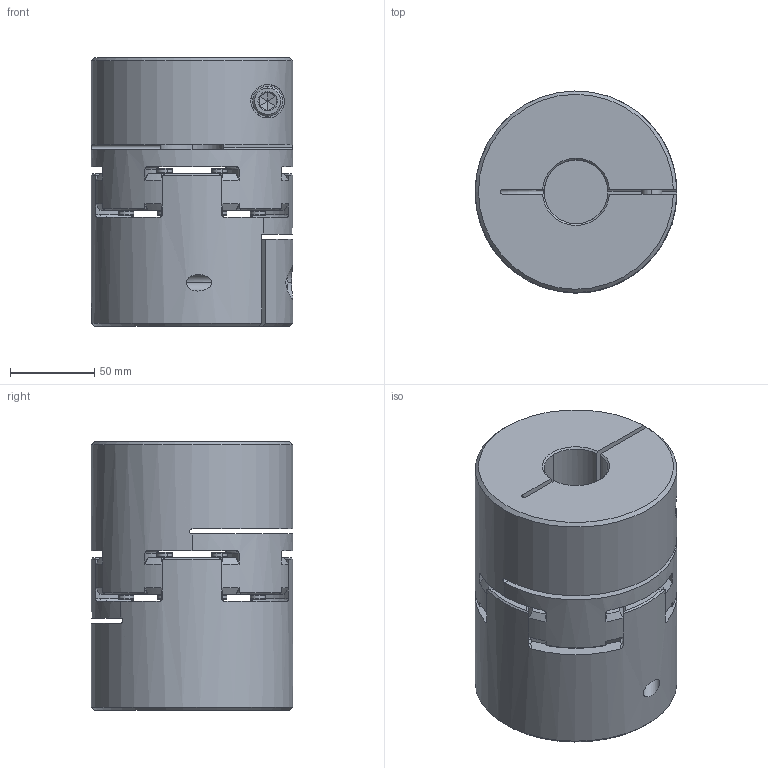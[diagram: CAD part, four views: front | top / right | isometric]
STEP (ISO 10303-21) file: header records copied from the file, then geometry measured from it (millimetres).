
FILE_DESCRIPTION((''),'2;1');
FILE_NAME('ROBA-ES__SIZE_55_TYPE_940_000','2021-05-31T09:20:50',('procad'),('Chr. Mayr GmbH + Co. KG'),'CREO PARAMETRIC BY PTC INC, 2019471','CREO PARAMETRIC BY PTC INC, 2019471','');
FILE_SCHEMA(('CONFIG_CONTROL_DESIGN','SHAPE_APPEARANCE_LAYERS_GROUPS'));
Length unit declared in the file: millimetre
Products named in the file (1): ROBA-ES__SIZE_55_TYPE_940_000
Bounding box: 120 x 120 x 160 mm (x, y, z)
Volume: 1481492.9 mm3; surface area: 178036.1 mm2
Topology: 1 solids, 1 shells, 529 faces, 1419 edges, 890 vertices
Faces by surface type: plane 222, cylinder 123, cone 106, torus 78
Entity records: 20908 total; most frequent: CARTESIAN_POINT 4222, ORIENTED_EDGE 2838, DIRECTION 2753, EDGE_CURVE 1419, AXIS2_PLACEMENT_3D 1041, VERTEX_POINT 890, VECTOR 671, LINE 671
